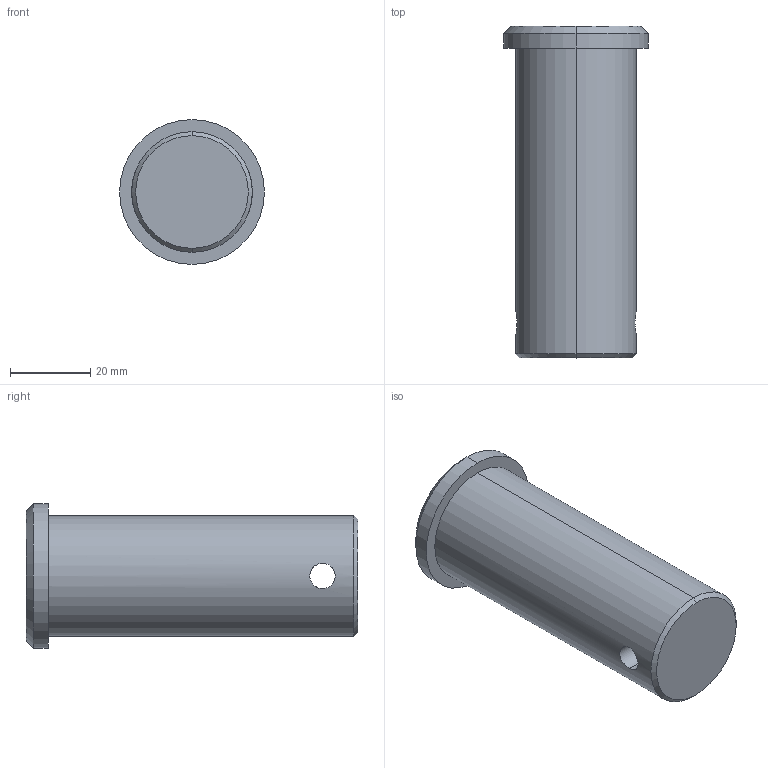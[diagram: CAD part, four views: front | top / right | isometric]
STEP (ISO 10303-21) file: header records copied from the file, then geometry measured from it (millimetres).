
FILE_DESCRIPTION (( 'STEP AP203' ), '1' );
FILE_NAME ('65660.W0130.step', '2023-10-06T10:00:20', ( '' ), ( '' ), 'SwSTEP 2.0', 'SolidWorks 2019', '' );
FILE_SCHEMA (( 'CONFIG_CONTROL_DESIGN' ));
Length unit declared in the file: millimetre
Products named in the file (1): 65660.W0130
Bounding box: 36 x 82.5 x 36 mm (x, y, z)
Volume: 58866.7 mm3; surface area: 10257 mm2
Topology: 1 solids, 1 shells, 13 faces, 26 edges, 16 vertices
Faces by surface type: cylinder 6, cone 4, plane 3
Entity records: 537 total; most frequent: CARTESIAN_POINT 180, DIRECTION 62, ORIENTED_EDGE 52, AXIS2_PLACEMENT_3D 26, EDGE_CURVE 26, EDGE_LOOP 16, VERTEX_POINT 16, ADVANCED_FACE 13
